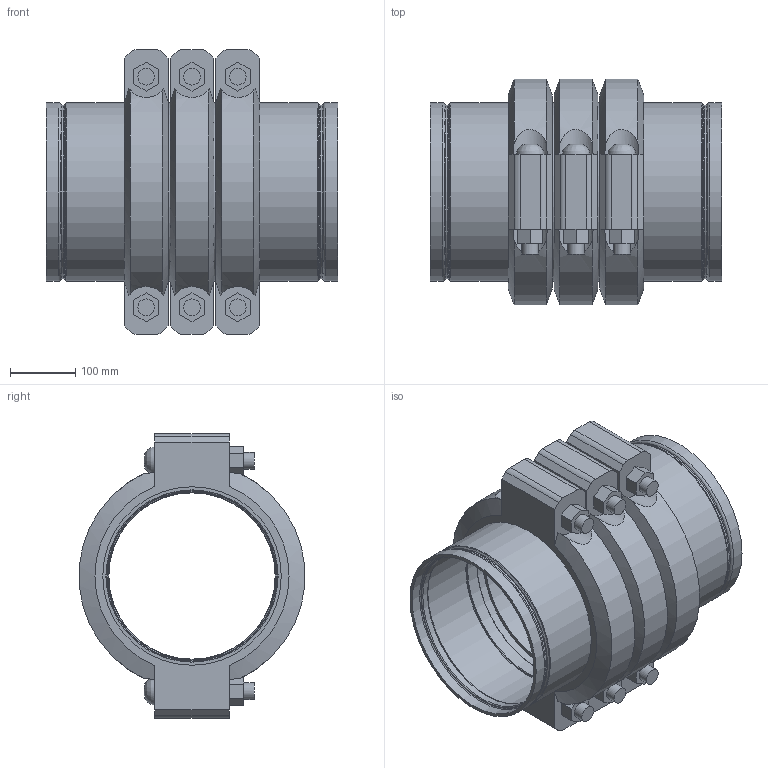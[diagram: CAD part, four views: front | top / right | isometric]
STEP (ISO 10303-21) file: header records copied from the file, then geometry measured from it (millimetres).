
FILE_DESCRIPTION(/* description */ ('VIC STRENGTHIN 100 EXPANSION JOINT 3 COUPLINGS COMPRESSED STYLE E155 (ST1)','CAx-IF Rec.Pracs.---Representation and Presentation of Product Manufacturing Information (PMI)---4.0---2014-10-13'),/* implementation_level */ '2;1');
FILE_NAME(/* name */ 'C:\Users\Vjadhav\AppData\Roaming\Autodesk\ApplicationPlugins\Victaulic.Temp\A21\Victaulic_SS-StrengThin 100_Expansion Joint_Compressed_3 Couplings_Style E155 (ST1)_10 (250).stp',/* time_stamp */ '2021-07-23T12:30:39+05:00',/* author */ ('kkamble'),/* organization */ ('Victaulic'),/* preprocessor_version */ 'ST-DEVELOPER v17.2',/* originating_system */ 'Autodesk Inventor 2019',/* authorisation */ '');
FILE_SCHEMA (('AP242_MANAGED_MODEL_BASED_3D_ENGINEERING_MIM_LF { 1 0 10303 442 1 1 4 }'));
Length unit declared in the file: inch
Products named in the file (4): E155-10.0; E494G-10.0; Nipple-10.0; 077-10.0
Assembly tree (7 placements, depth 2):
  E155-10.0
    E494G-10.0  x2
    Nipple-10.0  x2
    077-10.0  x3
Bounding box: 445.26 x 344.9 x 435.1 mm (x, y, z)
Volume: 11044017.4 mm3; surface area: 1648846.2 mm2
Topology: 7 solids, 13 shells, 265 faces, 707 edges, 504 vertices
Faces by surface type: plane 128, cylinder 83, torus 32, cone 16, bspline 6
Full cylindrical faces by diameter (mm): 25.4 x12, 27.432 x6, 254.508 x2, 255.626 x2, 258.724 x2, 263.5 x6, 265.176 x2, 268.275 x6, 273.05 x15
Entity records: 3938 total; most frequent: CARTESIAN_POINT 828, DIRECTION 661, ORIENTED_EDGE 568, EDGE_CURVE 284, AXIS2_PLACEMENT_3D 284, VERTEX_POINT 205, CIRCLE 171, EDGE_LOOP 129
